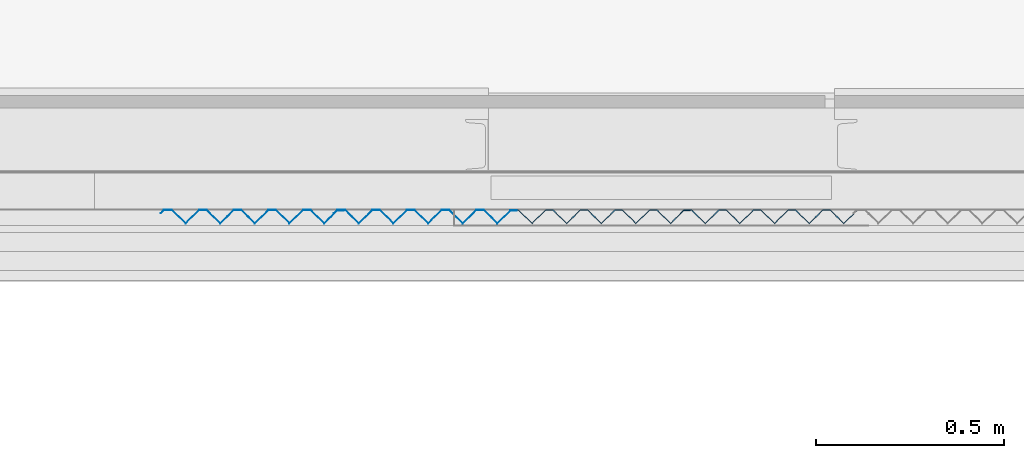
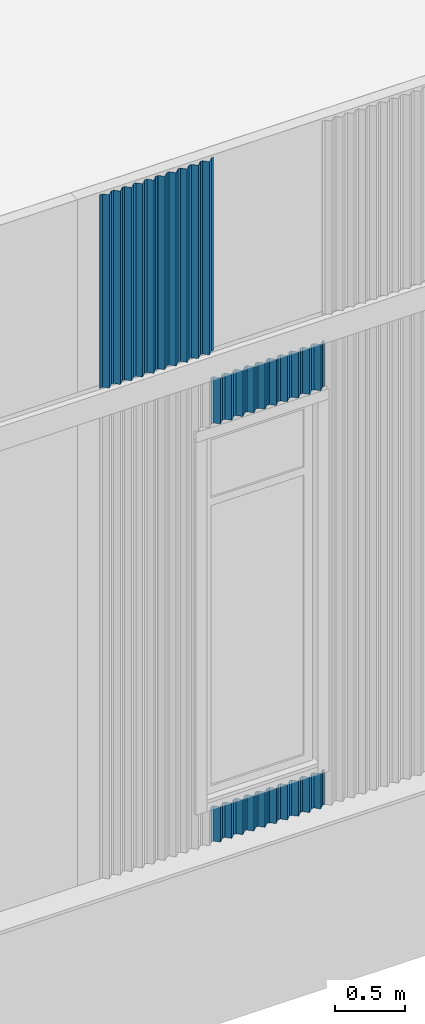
# One storey, part 90 of 338: 4 building element parts, 2 elements without a shape of their own.
"""IFC2X3 building model written with IfcOpenShell, lengths in millimetres."""

from ifc_helpers import new_model, entity, si_unit, converted_unit, derived_unit, money_unit, direction, frame, origin_with_axes, place, context, subcontext, project, spatial, faceted_brep, material, type_object, element, aggregate, save


model = new_model("IFC2X3")

# Units and contexts
model_context = context("Model", 3, precision=0.01, world=origin_with_axes(), true_north=direction((0.0, 1.0)))
plan_context = context("Plan", 3, precision=0.01, world=origin_with_axes(), true_north=direction((0.0, 1.0)))
body_context = subcontext(model_context, "Body", "Model", "MODEL_VIEW")
ifc_project = project(units=[si_unit("LENGTHUNIT", "METRE", prefix="MILLI"), si_unit("AREAUNIT", "SQUARE_METRE"), si_unit("VOLUMEUNIT", "CUBIC_METRE"), converted_unit("PLANEANGLEUNIT", "DEGREE", entity("IfcPlaneAngleMeasure", 0.0174532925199), si_unit("PLANEANGLEUNIT", "RADIAN"), dimensions=[0, 0, 0, 0, 0, 0, 0]), money_unit("EUR"), converted_unit("TIMEUNIT", "Year", entity("IfcTimeMeasure", 31556926.0), si_unit("TIMEUNIT", "SECOND"), dimensions=[0, 0, 1, 0, 0, 0, 0]), si_unit("MASSUNIT", "GRAM", prefix="KILO"), si_unit("THERMODYNAMICTEMPERATUREUNIT", "DEGREE_CELSIUS"), si_unit("LUMINOUSINTENSITYUNIT", "LUMEN"), si_unit("ENERGYUNIT", "JOULE", prefix="MEGA"), derived_unit("THERMALCONDUCTANCEUNIT", [(si_unit("POWERUNIT", "WATT"), 1), (si_unit("LENGTHUNIT", "METRE"), -1), (si_unit("THERMODYNAMICTEMPERATUREUNIT", "KELVIN"), -1)]), derived_unit("SPECIFICHEATCAPACITYUNIT", [(si_unit("ENERGYUNIT", "JOULE"), 1), (si_unit("MASSUNIT", "GRAM", prefix="KILO"), -1), (si_unit("THERMODYNAMICTEMPERATUREUNIT", "KELVIN"), -1)]), derived_unit("MASSDENSITYUNIT", [(si_unit("MASSUNIT", "GRAM", prefix="KILO"), 1), (si_unit("VOLUMEUNIT", "CUBIC_METRE"), -1)])], contexts=[model_context, plan_context])

# Site, building, storey
site_placement = place(None, origin_with_axes())
site = spatial("IfcSite", under=ifc_project, at=site_placement, Name="Fortuinstraat Woensdrecht", CompositionType="ELEMENT")
building_placement = place(site_placement, origin_with_axes())
building = spatial("IfcBuilding", under=site, at=building_placement, Name="IKC Fortuna", CompositionType="ELEMENT")
storey_placement = place(building_placement, origin_with_axes())
storey = spatial("IfcBuildingStorey", under=building, at=storey_placement, Name="00 begane grond", CompositionType="ELEMENT", Elevation=0.0)

# Proxy, building element parts
building_element_proxy_type = type_object("IfcBuildingElementProxyType", Name="21 Sandwich custom pyramid 946 x 37", PredefinedType="NOTDEFINED")
proxy_1_placement = place(storey_placement, frame((45134.9270571, 20896.2966283, 1000.0), z_axis=(0.0, 0.0, 1.0), x_axis=(-1.0, 0.0, 0.0)))
proxy_1 = element("IfcBuildingElementProxy", 1, at=proxy_1_placement, inside=storey, type_object=building_element_proxy_type, Name="41_Generieke bekleding & afwerking buiten_sandwich custom pyramid")
ifc_material = material(Name="Metaal - Aluminium")
building_element_part_1_placement = place(proxy_1_placement, origin_with_axes())
building_element_part_1 = element("IfcBuildingElementPart", 2, at=building_element_part_1_placement, material=ifc_material, Name="Metaal - Aluminium", context=body_context, shape_type="Brep", body=[
    faceted_brep([(17.2342926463, 1.20000548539, 310.623682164), (0.0, 1.20000548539, 310.623682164), (0.0, 1.20000548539, 0.0), (17.2342926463, 1.20000548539, 0.0), (0.0, 2.39999686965, 310.623682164), (52.0000026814, 35.0000001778, 310.623682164), (87.9999980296, 0.0, 310.623682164), (108.000000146, 0.0, 310.623682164), (143.999995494, 35.0000001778, 310.623682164), (180.000004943, 0.0, 310.623682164), (199.999992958, 0.0, 310.623682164), (236.000002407, 35.0000001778, 310.623682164), (271.999997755, 0.0, 310.623682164), (291.999999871, 0.0, 310.623682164), (327.99999522, 35.0000001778, 310.623682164), (364.000004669, 0.0, 310.623682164), (384.000006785, 0.0, 310.623682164), (420.000002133, 35.0000001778, 310.623682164), (455.999997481, 0.0, 310.623682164), (477.721464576, 0.0, 310.623682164), (486.309372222, 8.34935896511, 310.623682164), (485.472879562, 9.20975302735, 310.623682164), (477.23428491, 1.20000548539, 310.623682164), (460.000006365, 1.20000548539, 310.623682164), (456.487191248, 1.20000548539, 310.623682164), (420.000002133, 36.6736482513, 310.623682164), (383.512813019, 1.20000548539, 310.623682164), (364.487184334, 1.20000548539, 310.623682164), (327.99999522, 36.6736482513, 310.623682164), (291.512820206, 1.20000548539, 310.623682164), (272.487191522, 1.20000548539, 310.623682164), (236.000002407, 36.6736482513, 310.623682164), (199.512813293, 1.20000548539, 310.623682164), (180.487184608, 1.20000548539, 310.623682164), (143.999995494, 36.6736482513, 310.623682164), (107.51282048, 1.20000548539, 310.623682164), (88.487191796, 1.20000548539, 310.623682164), (52.0000026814, 36.6736482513, 310.623682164), (16.7470988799, 2.39999686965, 310.623682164), (0.0, 2.39999686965, 0.0), (16.7470988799, 2.39999686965, 0.0), (52.0000026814, 36.6736482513, 0.0), (88.487191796, 1.20000548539, 0.0), (107.51282048, 1.20000548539, 0.0), (143.999995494, 36.6736482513, 0.0), (180.487184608, 1.20000548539, 0.0), (199.512813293, 1.20000548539, 0.0), (236.000002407, 36.6736482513, 0.0), (272.487191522, 1.20000548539, 0.0), (291.512820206, 1.20000548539, 0.0), (327.99999522, 36.6736482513, 0.0), (364.487184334, 1.20000548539, 0.0), (383.512813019, 1.20000548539, 0.0), (420.000002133, 36.6736482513, 0.0), (456.487191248, 1.20000548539, 0.0), (460.000006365, 1.20000548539, 0.0), (477.23428491, 1.20000548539, 0.0), (485.472879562, 9.20975302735, 0.0), (486.309372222, 8.34935896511, 0.0), (477.721464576, 0.0, 0.0), (455.999997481, 0.0, 0.0), (420.000002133, 35.0000001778, 0.0), (384.000006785, 0.0, 0.0), (364.000004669, 0.0, 0.0), (327.99999522, 35.0000001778, 0.0), (291.999999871, 0.0, 0.0), (271.999997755, 0.0, 0.0), (236.000002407, 35.0000001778, 0.0), (199.999992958, 0.0, 0.0), (180.000004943, 0.0, 0.0), (143.999995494, 35.0000001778, 0.0), (108.000000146, 0.0, 0.0), (87.9999980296, 0.0, 0.0), (52.0000026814, 35.0000001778, 0.0)], [[[0, 1, 2, 3]], [[4, 1, 0, 5, 6, 7, 8, 9, 10, 11, 12, 13, 14, 15, 16, 17, 18, 19, 20, 21, 22, 23, 24, 25, 26, 27, 28, 29, 30, 31, 32, 33, 34, 35, 36, 37, 38]], [[1, 4, 39, 2]], [[2, 39, 40, 41, 42, 43, 44, 45, 46, 47, 48, 49, 50, 51, 52, 53, 54, 55, 56, 57, 58, 59, 60, 61, 62, 63, 64, 65, 66, 67, 68, 69, 70, 71, 72, 73, 3]], [[5, 0, 3, 73]], [[6, 5, 73, 72]], [[7, 6, 72, 71]], [[8, 7, 71, 70]], [[9, 8, 70, 69]], [[10, 9, 69, 68]], [[11, 10, 68, 67]], [[12, 11, 67, 66]], [[13, 12, 66, 65]], [[14, 13, 65, 64]], [[15, 14, 64, 63]], [[16, 15, 63, 62]], [[17, 16, 62, 61]], [[18, 17, 61, 60]], [[19, 18, 60, 59]], [[20, 19, 59, 58]], [[21, 20, 58, 57]], [[22, 21, 57, 56]], [[23, 22, 56, 55]], [[24, 23, 55, 54]], [[25, 24, 54, 53]], [[26, 25, 53, 52]], [[27, 26, 52, 51]], [[28, 27, 51, 50]], [[29, 28, 50, 49]], [[30, 29, 49, 48]], [[31, 30, 48, 47]], [[32, 31, 47, 46]], [[33, 32, 46, 45]], [[34, 33, 45, 44]], [[35, 34, 44, 43]], [[36, 35, 43, 42]], [[37, 36, 42, 41]], [[38, 37, 41, 40]], [[4, 38, 40, 39]]]),
    faceted_brep([(0.0, 2.39999686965, 3655.00076674), (0.0, 1.20000548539, 3655.00076674), (0.0, 1.20000548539, 4060.85690076), (0.0, 2.39999686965, 4060.85690076), (17.2342926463, 1.20000548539, 3655.00076674), (16.7470988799, 2.39999686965, 3655.00076674), (52.0000026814, 36.6736482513, 3655.00076674), (88.487191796, 1.20000548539, 3655.00076674), (107.51282048, 1.20000548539, 3655.00076674), (143.999995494, 36.6736482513, 3655.00076674), (180.487184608, 1.20000548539, 3655.00076674), (199.512813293, 1.20000548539, 3655.00076674), (236.000002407, 36.6736482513, 3655.00076674), (272.487191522, 1.20000548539, 3655.00076674), (291.512820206, 1.20000548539, 3655.00076674), (327.99999522, 36.6736482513, 3655.00076674), (364.487184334, 1.20000548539, 3655.00076674), (383.512813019, 1.20000548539, 3655.00076674), (420.000002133, 36.6736482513, 3655.00076674), (456.487191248, 1.20000548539, 3655.00076674), (460.000006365, 1.20000548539, 3655.00076674), (477.23428491, 1.20000548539, 3655.00076674), (485.472879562, 9.20975302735, 3655.00076674), (486.309372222, 8.34935896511, 3655.00076674), (477.721464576, 0.0, 3655.00076674), (455.999997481, 0.0, 3655.00076674), (420.000002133, 35.0000001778, 3655.00076674), (384.000006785, 0.0, 3655.00076674), (364.000004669, 0.0, 3655.00076674), (327.99999522, 35.0000001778, 3655.00076674), (291.999999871, 0.0, 3655.00076674), (271.999997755, 0.0, 3655.00076674), (236.000002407, 35.0000001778, 3655.00076674), (199.999992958, 0.0, 3655.00076674), (180.000004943, 0.0, 3655.00076674), (143.999995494, 35.0000001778, 3655.00076674), (108.000000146, 0.0, 3655.00076674), (87.9999980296, 0.0, 3655.00076674), (52.0000026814, 35.0000001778, 3655.00076674), (17.2342926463, 1.20000548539, 4060.85690076), (16.7470988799, 2.39999686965, 4060.85690076), (52.0000026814, 35.0000001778, 4060.85690076), (87.9999980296, 0.0, 4060.85690076), (108.000000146, 0.0, 4060.85690076), (143.999995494, 35.0000001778, 4060.85690076), (180.000004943, 0.0, 4060.85690076), (199.999992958, 0.0, 4060.85690076), (236.000002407, 35.0000001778, 4060.85690076), (271.999997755, 0.0, 4060.85690076), (291.999999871, 0.0, 4060.85690076), (327.99999522, 35.0000001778, 4060.85690076), (364.000004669, 0.0, 4060.85690076), (384.000006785, 0.0, 4060.85690076), (420.000002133, 35.0000001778, 4060.85690076), (455.999997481, 0.0, 4060.85690076), (477.721464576, 0.0, 4060.85690076), (486.309372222, 8.34935896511, 4060.85690076), (485.472879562, 9.20975302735, 4060.85690076), (477.23428491, 1.20000548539, 4060.85690076), (460.000006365, 1.20000548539, 4060.85690076), (456.487191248, 1.20000548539, 4060.85690076), (420.000002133, 36.6736482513, 4060.85690076), (383.512813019, 1.20000548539, 4060.85690076), (364.487184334, 1.20000548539, 4060.85690076), (327.99999522, 36.6736482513, 4060.85690076), (291.512820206, 1.20000548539, 4060.85690076), (272.487191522, 1.20000548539, 4060.85690076), (236.000002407, 36.6736482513, 4060.85690076), (199.512813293, 1.20000548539, 4060.85690076), (180.487184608, 1.20000548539, 4060.85690076), (143.999995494, 36.6736482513, 4060.85690076), (107.51282048, 1.20000548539, 4060.85690076), (88.487191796, 1.20000548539, 4060.85690076), (52.0000026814, 36.6736482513, 4060.85690076)], [[[0, 1, 2, 3]], [[4, 1, 0, 5, 6, 7, 8, 9, 10, 11, 12, 13, 14, 15, 16, 17, 18, 19, 20, 21, 22, 23, 24, 25, 26, 27, 28, 29, 30, 31, 32, 33, 34, 35, 36, 37, 38]], [[1, 4, 39, 2]], [[40, 3, 2, 39, 41, 42, 43, 44, 45, 46, 47, 48, 49, 50, 51, 52, 53, 54, 55, 56, 57, 58, 59, 60, 61, 62, 63, 64, 65, 66, 67, 68, 69, 70, 71, 72, 73]], [[5, 0, 3, 40]], [[6, 5, 40, 73]], [[7, 6, 73, 72]], [[8, 7, 72, 71]], [[9, 8, 71, 70]], [[10, 9, 70, 69]], [[11, 10, 69, 68]], [[12, 11, 68, 67]], [[13, 12, 67, 66]], [[14, 13, 66, 65]], [[15, 14, 65, 64]], [[16, 15, 64, 63]], [[17, 16, 63, 62]], [[18, 17, 62, 61]], [[19, 18, 61, 60]], [[20, 19, 60, 59]], [[21, 20, 59, 58]], [[22, 21, 58, 57]], [[23, 22, 57, 56]], [[24, 23, 56, 55]], [[25, 24, 55, 54]], [[26, 25, 54, 53]], [[27, 26, 53, 52]], [[28, 27, 52, 51]], [[29, 28, 51, 50]], [[30, 29, 50, 49]], [[31, 30, 49, 48]], [[32, 31, 48, 47]], [[33, 32, 47, 46]], [[34, 33, 46, 45]], [[35, 34, 45, 44]], [[36, 35, 44, 43]], [[37, 36, 43, 42]], [[38, 37, 42, 41]], [[4, 38, 41, 39]]]),
])
building_element_part_2_placement = place(proxy_1_placement, origin_with_axes())
building_element_part_2 = element("IfcBuildingElementPart", 3, at=building_element_part_2_placement, material=ifc_material, Name="Metaal - Aluminium", context=body_context, shape_type="Brep", body=[
    faceted_brep([(477.234285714, 1.2, 310.623682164), (460.0, 1.2, 310.623682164), (460.0, 1.2, 0.0), (477.234285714, 1.2, 0.0), (460.0, 2.4, 310.623682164), (485.472879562, 9.20975302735, 310.623682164), (512.0, 35.0, 310.623682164), (548.0, 0.0, 310.623682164), (568.0, 0.0, 310.623682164), (604.0, 35.0, 310.623682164), (640.0, 0.0, 310.623682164), (660.0, 0.0, 310.623682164), (696.0, 35.0, 310.623682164), (732.0, 0.0, 310.623682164), (752.0, 0.0, 310.623682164), (788.0, 35.0, 310.623682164), (824.0, 0.0, 310.623682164), (844.0, 0.0, 310.623682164), (880.0, 35.0, 310.623682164), (916.0, 0.0, 310.623682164), (937.721470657, 0.0, 310.623682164), (946.309378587, 8.34935493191, 310.623682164), (945.472884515, 9.20974883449, 310.623682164), (937.234285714, 1.2, 310.623682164), (916.487184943, 1.2, 310.623682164), (880.0, 36.6736520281, 310.623682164), (843.512815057, 1.2, 310.623682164), (824.487184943, 1.2, 310.623682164), (788.0, 36.6736520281, 310.623682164), (751.512815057, 1.2, 310.623682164), (732.487184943, 1.2, 310.623682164), (696.0, 36.6736520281, 310.623682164), (659.512815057, 1.2, 310.623682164), (640.487184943, 1.2, 310.623682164), (604.0, 36.6736520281, 310.623682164), (567.512815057, 1.2, 310.623682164), (548.487184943, 1.2, 310.623682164), (512.0, 36.6736520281, 310.623682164), (476.747100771, 2.4, 310.623682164), (460.0, 2.4, 0.0), (476.747100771, 2.4, 0.0), (512.0, 36.6736520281, 0.0), (548.487184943, 1.2, 0.0), (567.512815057, 1.2, 0.0), (604.0, 36.6736520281, 0.0), (640.487184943, 1.2, 0.0), (659.512815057, 1.2, 0.0), (696.0, 36.6736520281, 0.0), (732.487184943, 1.2, 0.0), (751.512815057, 1.2, 0.0), (788.0, 36.6736520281, 0.0), (824.487184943, 1.2, 0.0), (843.512815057, 1.2, 0.0), (880.0, 36.6736520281, 0.0), (916.487184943, 1.2, 0.0), (937.234285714, 1.2, 0.0), (945.472884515, 9.20974883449, 0.0), (946.309378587, 8.34935493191, 0.0), (937.721470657, 0.0, 0.0), (916.0, 0.0, 0.0), (880.0, 35.0, 0.0), (844.0, 0.0, 0.0), (824.0, 0.0, 0.0), (788.0, 35.0, 0.0), (752.0, 0.0, 0.0), (732.0, 0.0, 0.0), (696.0, 35.0, 0.0), (660.0, 0.0, 0.0), (640.0, 0.0, 0.0), (604.0, 35.0, 0.0), (568.0, 0.0, 0.0), (548.0, 0.0, 0.0), (512.0, 35.0, 0.0), (485.472879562, 9.20975302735, 0.0)], [[[0, 1, 2, 3]], [[4, 1, 0, 5, 6, 7, 8, 9, 10, 11, 12, 13, 14, 15, 16, 17, 18, 19, 20, 21, 22, 23, 24, 25, 26, 27, 28, 29, 30, 31, 32, 33, 34, 35, 36, 37, 38]], [[1, 4, 39, 2]], [[3, 2, 39, 40, 41, 42, 43, 44, 45, 46, 47, 48, 49, 50, 51, 52, 53, 54, 55, 56, 57, 58, 59, 60, 61, 62, 63, 64, 65, 66, 67, 68, 69, 70, 71, 72, 73]], [[5, 0, 3, 73]], [[6, 5, 73, 72]], [[7, 6, 72, 71]], [[8, 7, 71, 70]], [[9, 8, 70, 69]], [[10, 9, 69, 68]], [[11, 10, 68, 67]], [[12, 11, 67, 66]], [[13, 12, 66, 65]], [[14, 13, 65, 64]], [[15, 14, 64, 63]], [[16, 15, 63, 62]], [[17, 16, 62, 61]], [[18, 17, 61, 60]], [[19, 18, 60, 59]], [[20, 19, 59, 58]], [[21, 20, 58, 57]], [[22, 21, 57, 56]], [[23, 22, 56, 55]], [[24, 23, 55, 54]], [[25, 24, 54, 53]], [[26, 25, 53, 52]], [[27, 26, 52, 51]], [[28, 27, 51, 50]], [[29, 28, 50, 49]], [[30, 29, 49, 48]], [[31, 30, 48, 47]], [[32, 31, 47, 46]], [[33, 32, 46, 45]], [[34, 33, 45, 44]], [[35, 34, 44, 43]], [[36, 35, 43, 42]], [[37, 36, 42, 41]], [[38, 37, 41, 40]], [[4, 38, 40, 39]]]),
    faceted_brep([(460.0, 2.4, 3655.00076674), (460.0, 1.2, 3655.00076674), (460.0, 1.2, 4060.85690076), (460.0, 2.4, 4060.85690076), (477.234285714, 1.2, 3655.00076674), (476.747100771, 2.4, 3655.00076674), (512.0, 36.6736520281, 3655.00076674), (548.487184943, 1.2, 3655.00076674), (567.512815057, 1.2, 3655.00076674), (604.0, 36.6736520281, 3655.00076674), (640.487184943, 1.2, 3655.00076674), (659.512815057, 1.2, 3655.00076674), (696.0, 36.6736520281, 3655.00076674), (732.487184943, 1.2, 3655.00076674), (751.512815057, 1.2, 3655.00076674), (788.0, 36.6736520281, 3655.00076674), (824.487184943, 1.2, 3655.00076674), (843.512815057, 1.2, 3655.00076674), (880.0, 36.6736520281, 3655.00076674), (916.487184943, 1.2, 3655.00076674), (937.234285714, 1.2, 3655.00076674), (945.472884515, 9.20974883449, 3655.00076674), (946.309378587, 8.34935493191, 3655.00076674), (937.721470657, 0.0, 3655.00076674), (916.0, 0.0, 3655.00076674), (880.0, 35.0, 3655.00076674), (844.0, 0.0, 3655.00076674), (824.0, 0.0, 3655.00076674), (788.0, 35.0, 3655.00076674), (752.0, 0.0, 3655.00076674), (732.0, 0.0, 3655.00076674), (696.0, 35.0, 3655.00076674), (660.0, 0.0, 3655.00076674), (640.0, 0.0, 3655.00076674), (604.0, 35.0, 3655.00076674), (568.0, 0.0, 3655.00076674), (548.0, 0.0, 3655.00076674), (512.0, 35.0, 3655.00076674), (485.472879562, 9.20975302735, 3655.00076674), (477.234285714, 1.2, 4060.85690076), (485.472879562, 9.20975302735, 4060.85690076), (512.0, 35.0, 4060.85690076), (548.0, 0.0, 4060.85690076), (568.0, 0.0, 4060.85690076), (604.0, 35.0, 4060.85690076), (640.0, 0.0, 4060.85690076), (660.0, 0.0, 4060.85690076), (696.0, 35.0, 4060.85690076), (732.0, 0.0, 4060.85690076), (752.0, 0.0, 4060.85690076), (788.0, 35.0, 4060.85690076), (824.0, 0.0, 4060.85690076), (844.0, 0.0, 4060.85690076), (880.0, 35.0, 4060.85690076), (916.0, 0.0, 4060.85690076), (937.721470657, 0.0, 4060.85690076), (946.309378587, 8.34935493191, 4060.85690076), (945.472884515, 9.20974883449, 4060.85690076), (937.234285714, 1.2, 4060.85690076), (916.487184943, 1.2, 4060.85690076), (880.0, 36.6736520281, 4060.85690076), (843.512815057, 1.2, 4060.85690076), (824.487184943, 1.2, 4060.85690076), (788.0, 36.6736520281, 4060.85690076), (751.512815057, 1.2, 4060.85690076), (732.487184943, 1.2, 4060.85690076), (696.0, 36.6736520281, 4060.85690076), (659.512815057, 1.2, 4060.85690076), (640.487184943, 1.2, 4060.85690076), (604.0, 36.6736520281, 4060.85690076), (567.512815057, 1.2, 4060.85690076), (548.487184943, 1.2, 4060.85690076), (512.0, 36.6736520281, 4060.85690076), (476.747100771, 2.4, 4060.85690076)], [[[0, 1, 2, 3]], [[4, 1, 0, 5, 6, 7, 8, 9, 10, 11, 12, 13, 14, 15, 16, 17, 18, 19, 20, 21, 22, 23, 24, 25, 26, 27, 28, 29, 30, 31, 32, 33, 34, 35, 36, 37, 38]], [[1, 4, 39, 2]], [[3, 2, 39, 40, 41, 42, 43, 44, 45, 46, 47, 48, 49, 50, 51, 52, 53, 54, 55, 56, 57, 58, 59, 60, 61, 62, 63, 64, 65, 66, 67, 68, 69, 70, 71, 72, 73]], [[5, 0, 3, 73]], [[6, 5, 73, 72]], [[7, 6, 72, 71]], [[8, 7, 71, 70]], [[9, 8, 70, 69]], [[10, 9, 69, 68]], [[11, 10, 68, 67]], [[12, 11, 67, 66]], [[13, 12, 66, 65]], [[14, 13, 65, 64]], [[15, 14, 64, 63]], [[16, 15, 63, 62]], [[17, 16, 62, 61]], [[18, 17, 61, 60]], [[19, 18, 60, 59]], [[20, 19, 59, 58]], [[21, 20, 58, 57]], [[22, 21, 57, 56]], [[23, 22, 56, 55]], [[24, 23, 55, 54]], [[25, 24, 54, 53]], [[26, 25, 53, 52]], [[27, 26, 52, 51]], [[28, 27, 51, 50]], [[29, 28, 50, 49]], [[30, 29, 49, 48]], [[31, 30, 48, 47]], [[32, 31, 47, 46]], [[33, 32, 46, 45]], [[34, 33, 45, 44]], [[35, 34, 44, 43]], [[36, 35, 43, 42]], [[37, 36, 42, 41]], [[38, 37, 41, 40]], [[4, 38, 40, 39]]]),
])
aggregate(proxy_1, [building_element_part_1, building_element_part_2])

proxy_2_placement = place(storey_placement, frame((44214.9270571, 20896.2966283, 5289.99999237), z_axis=(0.0, 0.0, 1.0), x_axis=(-1.0, 0.0, 0.0)))
proxy_2 = element("IfcBuildingElementProxy", 4, at=proxy_2_placement, inside=storey, type_object=building_element_proxy_type, Name="41_Generieke bekleding & afwerking buiten_sandwich custom pyramid")
building_element_part_3_placement = place(proxy_2_placement, origin_with_axes())
building_element_part_3 = element("IfcBuildingElementPart", 5, at=building_element_part_3_placement, material=ifc_material, Name="Metaal - Aluminium", context=body_context, shape_type="Brep", body=[
    faceted_brep([(0.0, 2.39999686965, 0.0), (0.0, 1.20000548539, 0.0), (0.0, 1.20000548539, 1690.00000566), (0.0, 2.39999686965, 1690.00000566), (16.7470988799, 2.39999686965, 0.0), (52.0000026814, 36.6736482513, 0.0), (88.487191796, 1.20000548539, 0.0), (107.51282048, 1.20000548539, 0.0), (143.999995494, 36.6736482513, 0.0), (180.487184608, 1.20000548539, 0.0), (199.512813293, 1.20000548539, 0.0), (236.000002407, 36.6736482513, 0.0), (272.487191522, 1.20000548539, 0.0), (291.512820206, 1.20000548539, 0.0), (327.99999522, 36.6736482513, 0.0), (364.487184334, 1.20000548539, 0.0), (383.512813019, 1.20000548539, 0.0), (420.000002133, 36.6736482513, 0.0), (456.487191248, 1.20000548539, 0.0), (460.000006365, 1.20000548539, 0.0), (477.23428491, 1.20000548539, 0.0), (485.472879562, 9.20975302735, 0.0), (486.309372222, 8.34935896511, 0.0), (477.721464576, 0.0, 0.0), (455.999997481, 0.0, 0.0), (420.000002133, 35.0000001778, 0.0), (384.000006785, 0.0, 0.0), (364.000004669, 0.0, 0.0), (327.99999522, 35.0000001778, 0.0), (291.999999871, 0.0, 0.0), (271.999997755, 0.0, 0.0), (236.000002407, 35.0000001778, 0.0), (199.999992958, 0.0, 0.0), (180.000004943, 0.0, 0.0), (143.999995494, 35.0000001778, 0.0), (108.000000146, 0.0, 0.0), (87.9999980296, 0.0, 0.0), (52.0000026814, 35.0000001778, 0.0), (17.2342926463, 1.20000548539, 0.0), (17.2342926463, 1.20000548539, 1690.00000566), (52.0000026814, 35.0000001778, 1690.00000566), (87.9999980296, 0.0, 1690.00000566), (108.000000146, 0.0, 1690.00000566), (143.999995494, 35.0000001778, 1690.00000566), (180.000004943, 0.0, 1690.00000566), (199.999992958, 0.0, 1690.00000566), (236.000002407, 35.0000001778, 1690.00000566), (271.999997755, 0.0, 1690.00000566), (291.999999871, 0.0, 1690.00000566), (327.99999522, 35.0000001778, 1690.00000566), (364.000004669, 0.0, 1690.00000566), (384.000006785, 0.0, 1690.00000566), (420.000002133, 35.0000001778, 1690.00000566), (455.999997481, 0.0, 1690.00000566), (477.721464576, 0.0, 1690.00000566), (486.309372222, 8.34935896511, 1690.00000566), (485.472879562, 9.20975302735, 1690.00000566), (477.23428491, 1.20000548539, 1690.00000566), (460.000006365, 1.20000548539, 1690.00000566), (456.487191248, 1.20000548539, 1690.00000566), (420.000002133, 36.6736482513, 1690.00000566), (383.512813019, 1.20000548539, 1690.00000566), (364.487184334, 1.20000548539, 1690.00000566), (327.99999522, 36.6736482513, 1690.00000566), (291.512820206, 1.20000548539, 1690.00000566), (272.487191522, 1.20000548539, 1690.00000566), (236.000002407, 36.6736482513, 1690.00000566), (199.512813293, 1.20000548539, 1690.00000566), (180.487184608, 1.20000548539, 1690.00000566), (143.999995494, 36.6736482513, 1690.00000566), (107.51282048, 1.20000548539, 1690.00000566), (88.487191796, 1.20000548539, 1690.00000566), (52.0000026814, 36.6736482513, 1690.00000566), (16.7470988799, 2.39999686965, 1690.00000566)], [[[0, 1, 2, 3]], [[0, 4, 5, 6, 7, 8, 9, 10, 11, 12, 13, 14, 15, 16, 17, 18, 19, 20, 21, 22, 23, 24, 25, 26, 27, 28, 29, 30, 31, 32, 33, 34, 35, 36, 37, 38, 1]], [[1, 38, 39, 2]], [[3, 2, 39, 40, 41, 42, 43, 44, 45, 46, 47, 48, 49, 50, 51, 52, 53, 54, 55, 56, 57, 58, 59, 60, 61, 62, 63, 64, 65, 66, 67, 68, 69, 70, 71, 72, 73]], [[4, 0, 3, 73]], [[5, 4, 73, 72]], [[6, 5, 72, 71]], [[7, 6, 71, 70]], [[8, 7, 70, 69]], [[9, 8, 69, 68]], [[10, 9, 68, 67]], [[11, 10, 67, 66]], [[12, 11, 66, 65]], [[13, 12, 65, 64]], [[14, 13, 64, 63]], [[15, 14, 63, 62]], [[16, 15, 62, 61]], [[17, 16, 61, 60]], [[18, 17, 60, 59]], [[19, 18, 59, 58]], [[20, 19, 58, 57]], [[21, 20, 57, 56]], [[22, 21, 56, 55]], [[23, 22, 55, 54]], [[24, 23, 54, 53]], [[25, 24, 53, 52]], [[26, 25, 52, 51]], [[27, 26, 51, 50]], [[28, 27, 50, 49]], [[29, 28, 49, 48]], [[30, 29, 48, 47]], [[31, 30, 47, 46]], [[32, 31, 46, 45]], [[33, 32, 45, 44]], [[34, 33, 44, 43]], [[35, 34, 43, 42]], [[36, 35, 42, 41]], [[37, 36, 41, 40]], [[38, 37, 40, 39]]]),
])
building_element_part_4_placement = place(proxy_2_placement, origin_with_axes())
building_element_part_4 = element("IfcBuildingElementPart", 6, at=building_element_part_4_placement, material=ifc_material, Name="Metaal - Aluminium", context=body_context, shape_type="Brep", body=[
    faceted_brep([(460.0, 1.2, 0.0), (477.234285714, 1.2, 0.0), (477.234285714, 1.2, 1690.00000566), (460.0, 1.2, 1690.00000566), (460.0, 2.4, 0.0), (476.747100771, 2.4, 0.0), (512.0, 36.6736520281, 0.0), (548.487184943, 1.2, 0.0), (567.512815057, 1.2, 0.0), (604.0, 36.6736520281, 0.0), (640.487184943, 1.2, 0.0), (659.512815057, 1.2, 0.0), (696.0, 36.6736520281, 0.0), (732.487184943, 1.2, 0.0), (751.512815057, 1.2, 0.0), (788.0, 36.6736520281, 0.0), (824.487184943, 1.2, 0.0), (843.512815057, 1.2, 0.0), (880.0, 36.6736520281, 0.0), (916.487184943, 1.2, 0.0), (937.234285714, 1.2, 0.0), (945.472884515, 9.20974883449, 0.0), (946.309378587, 8.34935493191, 0.0), (937.721470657, 0.0, 0.0), (916.0, 0.0, 0.0), (880.0, 35.0, 0.0), (844.0, 0.0, 0.0), (824.0, 0.0, 0.0), (788.0, 35.0, 0.0), (752.0, 0.0, 0.0), (732.0, 0.0, 0.0), (696.0, 35.0, 0.0), (660.0, 0.0, 0.0), (640.0, 0.0, 0.0), (604.0, 35.0, 0.0), (568.0, 0.0, 0.0), (548.0, 0.0, 0.0), (512.0, 35.0, 0.0), (485.472879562, 9.20975302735, 0.0), (485.472879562, 9.20975302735, 1690.00000566), (512.0, 35.0, 1690.00000566), (548.0, 0.0, 1690.00000566), (568.0, 0.0, 1690.00000566), (604.0, 35.0, 1690.00000566), (640.0, 0.0, 1690.00000566), (660.0, 0.0, 1690.00000566), (696.0, 35.0, 1690.00000566), (732.0, 0.0, 1690.00000566), (752.0, 0.0, 1690.00000566), (788.0, 35.0, 1690.00000566), (824.0, 0.0, 1690.00000566), (844.0, 0.0, 1690.00000566), (880.0, 35.0, 1690.00000566), (916.0, 0.0, 1690.00000566), (937.721470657, 0.0, 1690.00000566), (946.309378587, 8.34935493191, 1690.00000566), (945.472884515, 9.20974883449, 1690.00000566), (937.234285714, 1.2, 1690.00000566), (916.487184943, 1.2, 1690.00000566), (880.0, 36.6736520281, 1690.00000566), (843.512815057, 1.2, 1690.00000566), (824.487184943, 1.2, 1690.00000566), (788.0, 36.6736520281, 1690.00000566), (751.512815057, 1.2, 1690.00000566), (732.487184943, 1.2, 1690.00000566), (696.0, 36.6736520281, 1690.00000566), (659.512815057, 1.2, 1690.00000566), (640.487184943, 1.2, 1690.00000566), (604.0, 36.6736520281, 1690.00000566), (567.512815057, 1.2, 1690.00000566), (548.487184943, 1.2, 1690.00000566), (512.0, 36.6736520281, 1690.00000566), (476.747100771, 2.4, 1690.00000566), (460.0, 2.4, 1690.00000566)], [[[0, 1, 2, 3]], [[0, 4, 5, 6, 7, 8, 9, 10, 11, 12, 13, 14, 15, 16, 17, 18, 19, 20, 21, 22, 23, 24, 25, 26, 27, 28, 29, 30, 31, 32, 33, 34, 35, 36, 37, 38, 1]], [[1, 38, 39, 2]], [[3, 2, 39, 40, 41, 42, 43, 44, 45, 46, 47, 48, 49, 50, 51, 52, 53, 54, 55, 56, 57, 58, 59, 60, 61, 62, 63, 64, 65, 66, 67, 68, 69, 70, 71, 72, 73]], [[4, 0, 3, 73]], [[5, 4, 73, 72]], [[6, 5, 72, 71]], [[7, 6, 71, 70]], [[8, 7, 70, 69]], [[9, 8, 69, 68]], [[10, 9, 68, 67]], [[11, 10, 67, 66]], [[12, 11, 66, 65]], [[13, 12, 65, 64]], [[14, 13, 64, 63]], [[15, 14, 63, 62]], [[16, 15, 62, 61]], [[17, 16, 61, 60]], [[18, 17, 60, 59]], [[19, 18, 59, 58]], [[20, 19, 58, 57]], [[21, 20, 57, 56]], [[22, 21, 56, 55]], [[23, 22, 55, 54]], [[24, 23, 54, 53]], [[25, 24, 53, 52]], [[26, 25, 52, 51]], [[27, 26, 51, 50]], [[28, 27, 50, 49]], [[29, 28, 49, 48]], [[30, 29, 48, 47]], [[31, 30, 47, 46]], [[32, 31, 46, 45]], [[33, 32, 45, 44]], [[34, 33, 44, 43]], [[35, 34, 43, 42]], [[36, 35, 42, 41]], [[37, 36, 41, 40]], [[38, 37, 40, 39]]]),
])
aggregate(proxy_2, [building_element_part_3, building_element_part_4])

save(model, "model.ifc")
